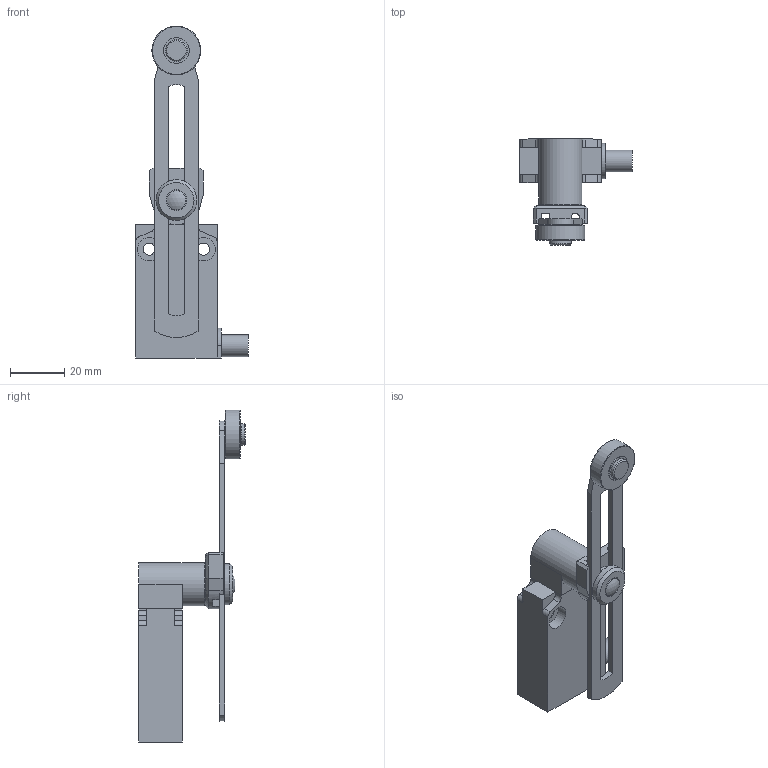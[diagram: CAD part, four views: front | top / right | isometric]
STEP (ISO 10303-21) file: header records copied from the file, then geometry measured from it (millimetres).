
FILE_DESCRIPTION(/* description */ (''),/* implementation_level */ '2;1');
FILE_NAME(/* name */ 'M49AV_side CABLE.stp',/* time_stamp */ '2024-11-20T10:07:52+01:00',/* author */ ('servizio.tecnico'),/* organization */ (''),/* preprocessor_version */ 'ST-DEVELOPER v19.2',/* originating_system */ 'Autodesk Inventor 2024',/* authorisation */ '');
FILE_SCHEMA (('AUTOMOTIVE_DESIGN { 1 0 10303 214 3 1 1 }'));
Length unit declared in the file: millimetre
Products named in the file (1): M49AV_side CABLE
Bounding box: 41.5 x 39.1 x 122 mm (x, y, z)
Volume: 33350.1 mm3; surface area: 14427.8 mm2
Topology: 5 solids, 5 shells, 146 faces, 341 edges, 223 vertices
Faces by surface type: plane 97, cylinder 42, torus 3, cone 3, sphere 1
Full cylindrical faces by diameter (mm): 4.4 x2, 5 x1, 6 x2, 7 x1, 7.6 x1, 8 x2, 8.7 x4, 9.5 x2, 11 x1, 15 x1, 15.8 x1, 18 x1
Entity records: 4302 total; most frequent: DIRECTION 733, CARTESIAN_POINT 730, ORIENTED_EDGE 682, EDGE_CURVE 341, AXIS2_PLACEMENT_3D 246, LINE 241, VECTOR 241, VERTEX_POINT 223
